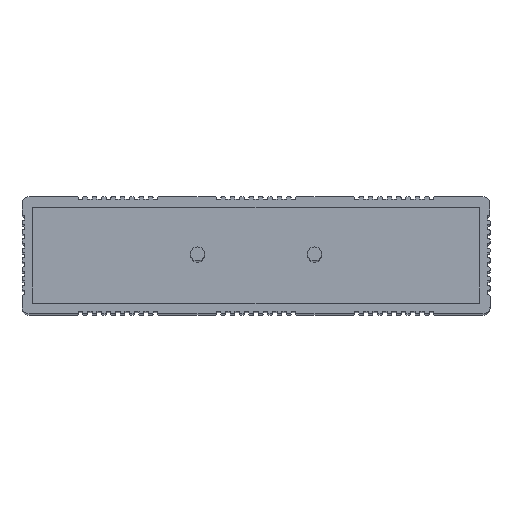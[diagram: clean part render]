
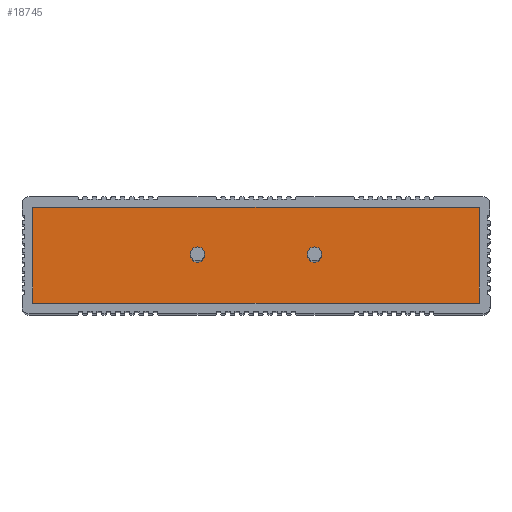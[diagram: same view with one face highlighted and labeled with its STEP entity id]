
A CAD part, top view. The second image highlights one B-rep face of the part: STEP entity #18745.
In plain terms, the highlighted planar face has unit normal (0, 0, 1).
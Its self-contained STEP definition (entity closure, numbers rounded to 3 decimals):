
#354 = LINE ( 'NONE', #24737, #11940 ) ;
#1436 = ORIENTED_EDGE ( 'NONE', *, *, #1614, .F. ) ;
#1614 = EDGE_CURVE ( 'NONE', #13592, #4878, #19262, .T. ) ;
#1737 = CARTESIAN_POINT ( 'NONE',  ( 25., 0., 180. ) ) ;
#1796 = VECTOR ( 'NONE', #10977, 1000. ) ;
#1949 = CARTESIAN_POINT ( 'NONE',  ( 0., 0., 180. ) ) ;
#2020 = CARTESIAN_POINT ( 'NONE',  ( -22., 0., 180. ) ) ;
#2524 = FACE_BOUND ( 'NONE', #2871, .T. ) ;
#2815 = CARTESIAN_POINT ( 'NONE',  ( 28., 0., 180. ) ) ;
#2871 = EDGE_LOOP ( 'NONE', ( #26508, #7369 ) ) ;
#3229 = CIRCLE ( 'NONE', #24200, 3. ) ;
#3250 = DIRECTION ( 'NONE',  ( -1., 0., 0. ) ) ;
#4160 = CARTESIAN_POINT ( 'NONE',  ( -28., 0., 180. ) ) ;
#4781 = CARTESIAN_POINT ( 'NONE',  ( -25., 0., 180. ) ) ;
#4814 = VERTEX_POINT ( 'NONE', #4160 ) ;
#4878 = VERTEX_POINT ( 'NONE', #9141 ) ;
#5577 = EDGE_CURVE ( 'NONE', #11489, #4814, #3229, .T. ) ;
#6023 = LINE ( 'NONE', #19573, #1796 ) ;
#6509 = CARTESIAN_POINT ( 'NONE',  ( 95.5, -20.5, 180. ) ) ;
#6835 = DIRECTION ( 'NONE',  ( 0., 0., -1. ) ) ;
#6972 = AXIS2_PLACEMENT_3D ( 'NONE', #1737, #25977, #23633 ) ;
#7369 = ORIENTED_EDGE ( 'NONE', *, *, #17775, .T. ) ;
#7573 = ORIENTED_EDGE ( 'NONE', *, *, #27939, .F. ) ;
#7723 = ORIENTED_EDGE ( 'NONE', *, *, #23362, .F. ) ;
#8255 = ORIENTED_EDGE ( 'NONE', *, *, #23294, .T. ) ;
#8386 = EDGE_CURVE ( 'NONE', #8775, #13592, #14829, .T. ) ;
#8775 = VERTEX_POINT ( 'NONE', #20328 ) ;
#8940 = CARTESIAN_POINT ( 'NONE',  ( 95.5, -20.5, 180. ) ) ;
#9141 = CARTESIAN_POINT ( 'NONE',  ( -95.5, -20.5, 180. ) ) ;
#9406 = DIRECTION ( 'NONE',  ( 1., 0., 0. ) ) ;
#10096 = EDGE_LOOP ( 'NONE', ( #7573, #1436, #22376, #7723 ) ) ;
#10579 = CARTESIAN_POINT ( 'NONE',  ( -95.5, 20.5, 180. ) ) ;
#10651 = ORIENTED_EDGE ( 'NONE', *, *, #5577, .T. ) ;
#10807 = CARTESIAN_POINT ( 'NONE',  ( 22., 0., 180. ) ) ;
#10816 = CARTESIAN_POINT ( 'NONE',  ( 95.5, -20.5, 180. ) ) ;
#10977 = DIRECTION ( 'NONE',  ( 0., 1., 0. ) ) ;
#10996 = CIRCLE ( 'NONE', #23103, 3. ) ;
#11478 = VERTEX_POINT ( 'NONE', #10807 ) ;
#11489 = VERTEX_POINT ( 'NONE', #2020 ) ;
#11940 = VECTOR ( 'NONE', #9406, 1000. ) ;
#13069 = PLANE ( 'NONE',  #14865 ) ;
#13547 = DIRECTION ( 'NONE',  ( -1., 0., 0. ) ) ;
#13592 = VERTEX_POINT ( 'NONE', #8940 ) ;
#14829 = LINE ( 'NONE', #6509, #27346 ) ;
#14865 = AXIS2_PLACEMENT_3D ( 'NONE', #1949, #22251, #24298 ) ;
#15241 = FACE_OUTER_BOUND ( 'NONE', #10096, .T. ) ;
#15957 = CIRCLE ( 'NONE', #23863, 3. ) ;
#17775 = EDGE_CURVE ( 'NONE', #24645, #11478, #15957, .T. ) ;
#18745 = ADVANCED_FACE ( 'NONE', ( #15241, #24153, #2524 ), #13069, .T. ) ;
#19262 = LINE ( 'NONE', #10816, #23874 ) ;
#19521 = CIRCLE ( 'NONE', #6972, 3. ) ;
#19573 = CARTESIAN_POINT ( 'NONE',  ( -95.5, -20.5, 180. ) ) ;
#20328 = CARTESIAN_POINT ( 'NONE',  ( 95.5, 20.5, 180. ) ) ;
#22251 = DIRECTION ( 'NONE',  ( 0., 0., 1. ) ) ;
#22285 = DIRECTION ( 'NONE',  ( 0., 0., -1. ) ) ;
#22376 = ORIENTED_EDGE ( 'NONE', *, *, #8386, .F. ) ;
#23103 = AXIS2_PLACEMENT_3D ( 'NONE', #4781, #22285, #13547 ) ;
#23294 = EDGE_CURVE ( 'NONE', #4814, #11489, #10996, .T. ) ;
#23362 = EDGE_CURVE ( 'NONE', #25908, #8775, #354, .T. ) ;
#23633 = DIRECTION ( 'NONE',  ( -1., 0., 0. ) ) ;
#23863 = AXIS2_PLACEMENT_3D ( 'NONE', #26013, #27929, #3250 ) ;
#23874 = VECTOR ( 'NONE', #27910, 1000. ) ;
#24153 = FACE_BOUND ( 'NONE', #27381, .T. ) ;
#24200 = AXIS2_PLACEMENT_3D ( 'NONE', #26832, #6835, #24494 ) ;
#24298 = DIRECTION ( 'NONE',  ( 1., 0., 0. ) ) ;
#24494 = DIRECTION ( 'NONE',  ( -1., 0., 0. ) ) ;
#24645 = VERTEX_POINT ( 'NONE', #2815 ) ;
#24737 = CARTESIAN_POINT ( 'NONE',  ( 95.5, 20.5, 180. ) ) ;
#25908 = VERTEX_POINT ( 'NONE', #10579 ) ;
#25977 = DIRECTION ( 'NONE',  ( 0., 0., -1. ) ) ;
#26013 = CARTESIAN_POINT ( 'NONE',  ( 25., 0., 180. ) ) ;
#26508 = ORIENTED_EDGE ( 'NONE', *, *, #28431, .T. ) ;
#26832 = CARTESIAN_POINT ( 'NONE',  ( -25., 0., 180. ) ) ;
#27346 = VECTOR ( 'NONE', #28245, 1000. ) ;
#27381 = EDGE_LOOP ( 'NONE', ( #8255, #10651 ) ) ;
#27910 = DIRECTION ( 'NONE',  ( -1., 0., 0. ) ) ;
#27929 = DIRECTION ( 'NONE',  ( 0., 0., -1. ) ) ;
#27939 = EDGE_CURVE ( 'NONE', #4878, #25908, #6023, .T. ) ;
#28245 = DIRECTION ( 'NONE',  ( 0., -1., 0. ) ) ;
#28431 = EDGE_CURVE ( 'NONE', #11478, #24645, #19521, .T. ) ;
